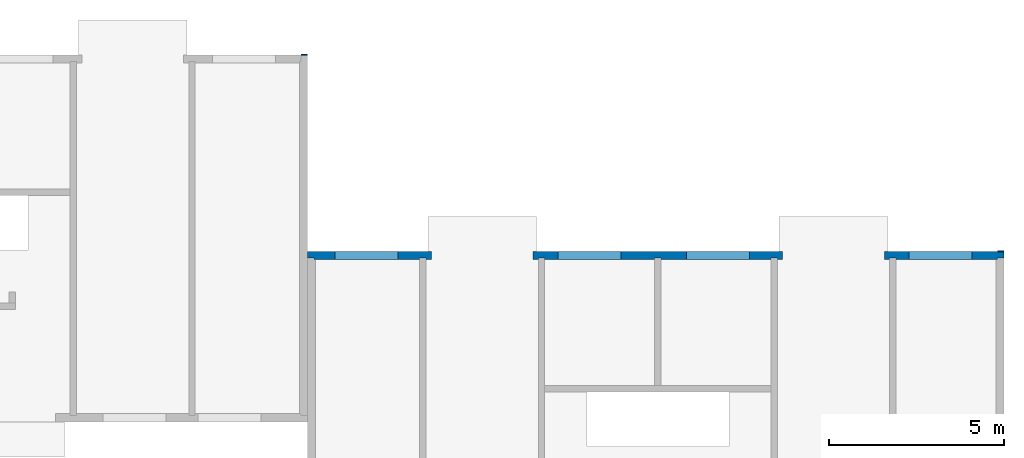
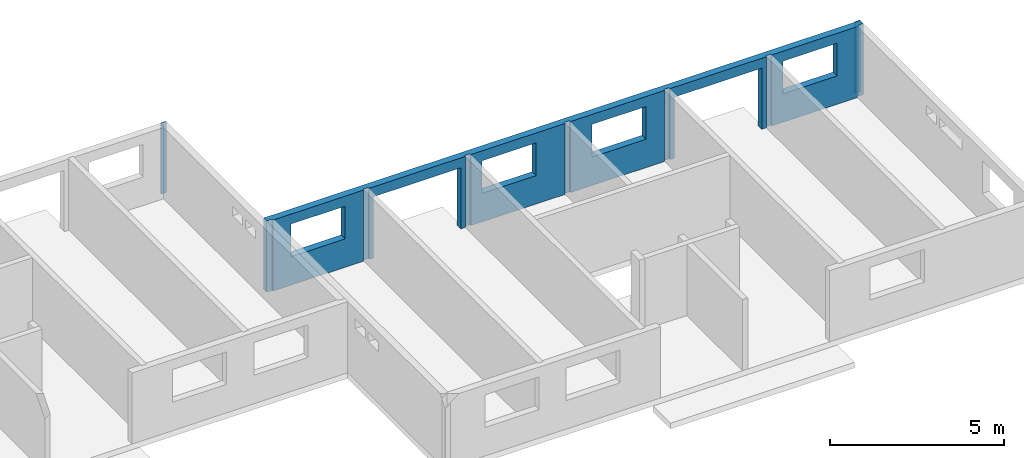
# One storey, part 9 of 9: 3 walls, 6 openings.
"""IFC2X3 building model written with IfcOpenShell, lengths in millimetres."""

from ifc_helpers import new_model, entity, si_unit, converted_unit, frame, frame_2d, origin, origin_with_axes, place, context, subcontext, project, spatial, polyline, rectangle, outline, extrude, material, layer, layer_set, layer_usage, element, save


model = new_model("IFC2X3")

# Units and contexts
model_context = context("Model", 3, precision=1e-05, world=origin())
plan_context = context("Plan", 3, precision=1e-05, world=origin())
body_context = subcontext(model_context, "Body", "Model", "MODEL_VIEW")
ifc_project = project(units=[si_unit("LENGTHUNIT", "METRE", prefix="MILLI"), converted_unit("PLANEANGLEUNIT", "DEGREE", entity("IfcPlaneAngleMeasure", 0.0174532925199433), si_unit("PLANEANGLEUNIT", "RADIAN"), dimensions=[0, 0, 0, 0, 0, 0, 0]), si_unit("AREAUNIT", "SQUARE_METRE"), si_unit("VOLUMEUNIT", "CUBIC_METRE")], contexts=[model_context, plan_context])

# Building, storey
building_placement = place(None, origin())
building = spatial("IfcBuilding", under=ifc_project, at=building_placement, Name="Bâtiment", CompositionType="ELEMENT")
storey_placement = place(building_placement, frame((0.0, 0.0, 2700.0), z_axis=(0.0, 0.0, 1.0), x_axis=(1.0, 0.0, 0.0)))
storey = spatial("IfcBuildingStorey", under=building, at=storey_placement, Name="r+1", CompositionType="ELEMENT", Elevation=2700.0)

# Wall
ifc_material_1 = material(Name="moellons")
ifc_layer_1 = layer(ifc_material_1, 20.00000000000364)
ifc_layer_set_1 = layer_set([ifc_layer_1])
ifc_layer_usage_1 = layer_usage(ifc_layer_set_1, "AXIS2", "POSITIVE", 0.0)
wall_1_placement = place(storey_placement, frame((39699.99999999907, 10470.07776548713, 0.0), z_axis=(0.0, 0.0, 1.0), x_axis=(-1.0, 0.0, 0.0)))
element("IfcWallStandardCase", 1, at=wall_1_placement, inside=storey, material=ifc_layer_usage_1, context=body_context, shape_type="SweptSolid", body=[
    extrude(rectangle(XDim=180.0, YDim=20.00000000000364, at=frame_2d((90.0, 10.00000000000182), x_axis=(1.0, 0.0))), frame((0.0, -20.00000000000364, 0.0), z_axis=(0.0, 0.0, 1.0), x_axis=(1.0, 0.0, 0.0)), (0.0, 0.0, 1.0), 2500.0),
])

# Wall, openings
ifc_material_2 = material(Name="moellons")
ifc_layer_2 = layer(ifc_material_2, 180.0)
ifc_material_3 = material(Name="briquettes")
ifc_layer_3 = layer(ifc_material_3, 40.0)
ifc_material_4 = material(Name="enduit platre")
ifc_layer_4 = layer(ifc_material_4, 10.0)
ifc_layer_set_2 = layer_set([ifc_layer_2, ifc_layer_3, ifc_layer_4])
ifc_layer_usage_2 = layer_usage(ifc_layer_set_2, "AXIS2", "POSITIVE", 0.0)
wall_2_placement = place(storey_placement, frame((59549.99999999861, 4870.077765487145, -4.547473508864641e-13), z_axis=(0.0, 0.0, 1.0), x_axis=(-1.0, 9.163674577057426e-17, 0.0)))
wall_2 = element("IfcWallStandardCase", 2, at=wall_2_placement, inside=storey, material=ifc_layer_usage_2, context=body_context, shape_type="SweptSolid", body=[
    extrude(outline(polyline([(16649.99999999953, 179.9999999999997), (16469.99999999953, 179.9999999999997), (16469.99999999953, 229.9999999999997), (13269.99999999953, 230.0000000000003), (13269.99999999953, 179.9999999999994), (13089.99999999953, 180.0000000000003), (13089.99999999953, 230.0000000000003), (9954.999999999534, 230.0000000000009), (9954.999999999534, 180.0), (9774.999999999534, 180.0000000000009), (9774.999999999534, 230.0000000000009), (6640.000061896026, 230.0000000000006), (6640.000061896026, 179.9999999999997), (6460.000061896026, 180.0000000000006), (6460.000061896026, 230.0000000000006), (3259.999999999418, 230.0000000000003), (3259.999999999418, 180.0000000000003), (3079.999999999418, 180.0000000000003), (3079.999999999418, 230.0000000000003), (220.0, 230.0), (220.0, 220.0), (180.0, 220.0), (180.0, 180.0), (-1.649461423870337e-14, 180.0), (0.0, 0.0), (19849.99999999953, 0.0), (19849.99999999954, 180.0), (19669.99999999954, 180.0), (19669.99999999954, 220.0), (19629.99999999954, 220.0), (19629.99999999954, 230.0), (16649.99999999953, 229.9999999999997), (16649.99999999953, 179.9999999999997)])), origin_with_axes(), (0.0, 0.0, 1.0), 2500.000000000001),
])
opening_1_placement = place(wall_2_placement, frame((17264.99999999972, -1.818989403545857e-12, 1000.000000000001), z_axis=(0.0, 1.0, 0.0), x_axis=(0.0, 0.0, 1.0)))
element("IfcOpeningElement", 3, at=opening_1_placement, cuts=wall_2, Name="Baie de fenêtre", ObjectType="Opening", context=body_context, shape_type="SweptSolid", body=[
    extrude(rectangle(XDim=1150.0, YDim=1800.0, at=frame_2d((575.0, 900.0), x_axis=(1.0, 0.0))), origin_with_axes(), (0.0, 0.0, 1.0), 229.9999999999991),
])
opening_2_placement = place(wall_2_placement, frame((10915.00000000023, -9.094947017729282e-13, 1000.000000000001), z_axis=(0.0, 1.0, 0.0), x_axis=(0.0, 0.0, 1.0)))
element("IfcOpeningElement", 4, at=opening_2_placement, cuts=wall_2, Name="Baie de fenêtre", ObjectType="Opening", context=body_context, shape_type="SweptSolid", body=[
    extrude(rectangle(XDim=1150.0, YDim=1800.0, at=frame_2d((575.0, 900.0), x_axis=(1.0, 0.0))), origin_with_axes(), (0.0, 0.0, 1.0), 230.0000000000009),
])
opening_3_placement = place(wall_2_placement, frame((7254.999999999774, -9.094947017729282e-13, 1000.000000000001), z_axis=(0.0, 1.0, 0.0), x_axis=(0.0, 0.0, 1.0)))
element("IfcOpeningElement", 5, at=opening_3_placement, cuts=wall_2, Name="Baie de fenêtre", ObjectType="Opening", context=body_context, shape_type="SweptSolid", body=[
    extrude(rectangle(XDim=1150.0, YDim=1800.0, at=frame_2d((575.0, 900.0), x_axis=(1.0, 0.0))), origin_with_axes(), (0.0, 0.0, 1.0), 230.0000000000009),
])
opening_4_placement = place(wall_2_placement, frame((905.0000000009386, 0.0, 1000.000000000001), z_axis=(0.0, 1.0, 0.0), x_axis=(0.0, 0.0, 1.0)))
element("IfcOpeningElement", 6, at=opening_4_placement, cuts=wall_2, Name="Baie de fenêtre", ObjectType="Opening", context=body_context, shape_type="SweptSolid", body=[
    extrude(rectangle(XDim=1150.0, YDim=1800.0, at=frame_2d((575.0, 900.0), x_axis=(1.0, 0.0))), origin_with_axes(), (0.0, 0.0, 1.0), 230.0),
])
opening_5_placement = place(wall_2_placement, frame((13419.99999999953, -1.818989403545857e-12, 4.547473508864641e-13), z_axis=(0.0, 1.0, 0.0), x_axis=(0.0, 0.0, 1.0)))
element("IfcOpeningElement", 7, at=opening_5_placement, cuts=wall_2, Name="Baie de porte", ObjectType="Opening", context=body_context, shape_type="SweptSolid", body=[
    extrude(rectangle(XDim=2150.0, YDim=2900.0, at=frame_2d((1075.0, 1450.0), x_axis=(1.0, 0.0))), origin_with_axes(), (0.0, 0.0, 1.0), 230.0),
])
opening_6_placement = place(wall_2_placement, frame((3410.000030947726, -9.094947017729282e-13, 4.547473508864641e-13), z_axis=(0.0, 1.0, 0.0), x_axis=(0.0, 0.0, 1.0)))
element("IfcOpeningElement", 8, at=opening_6_placement, cuts=wall_2, Name="Baie de porte", ObjectType="Opening", context=body_context, shape_type="SweptSolid", body=[
    extrude(rectangle(XDim=2150.0, YDim=2900.0, at=frame_2d((1075.0, 1450.0), x_axis=(1.0, 0.0))), origin_with_axes(), (0.0, 0.0, 1.0), 230.0000000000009),
])

# Wall
ifc_material_5 = material(Name="moellons")
ifc_layer_5 = layer(ifc_material_5, 20.00000000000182)
ifc_layer_set_3 = layer_set([ifc_layer_5])
ifc_layer_usage_3 = layer_usage(ifc_layer_set_3, "AXIS2", "POSITIVE", 0.0)
wall_3_placement = place(storey_placement, frame((59549.99999999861, 4870.077765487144, 0.0), z_axis=(0.0, 0.0, 1.0), x_axis=(-1.0, 0.0, 0.0)))
element("IfcWallStandardCase", 9, at=wall_3_placement, inside=storey, material=ifc_layer_usage_3, context=body_context, shape_type="SweptSolid", body=[
    extrude(rectangle(XDim=180.0, YDim=20.00000000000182, at=frame_2d((90.0, 10.00000000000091), x_axis=(1.0, 0.0))), frame((0.0, -20.00000000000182, 0.0), z_axis=(0.0, 0.0, 1.0), x_axis=(1.0, 0.0, 0.0)), (0.0, 0.0, 1.0), 2500.0),
])

save(model, "model.ifc")
